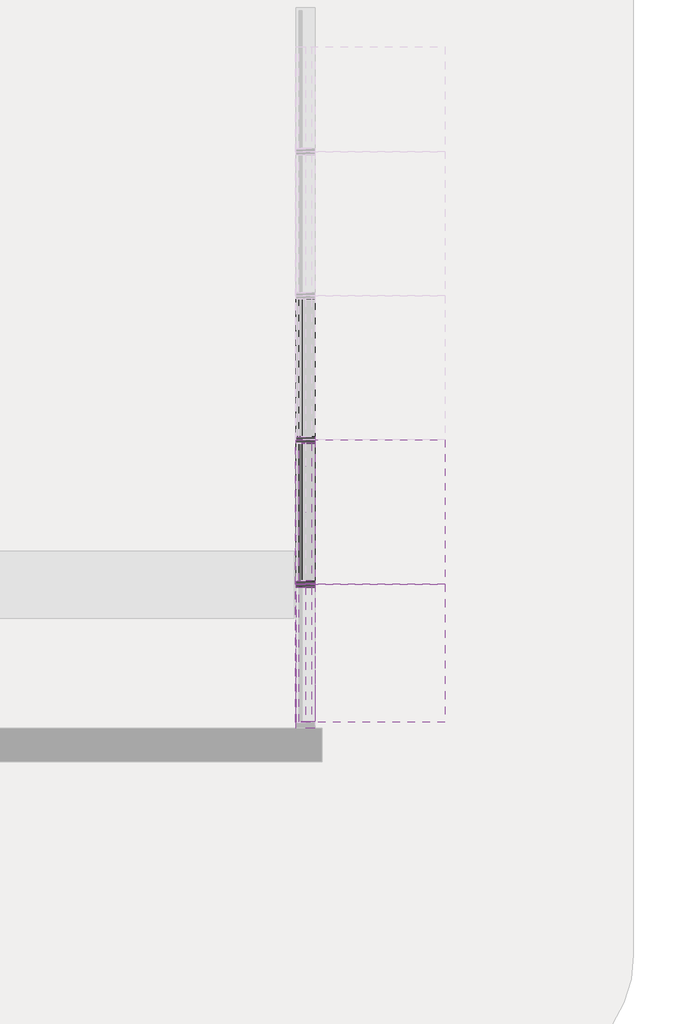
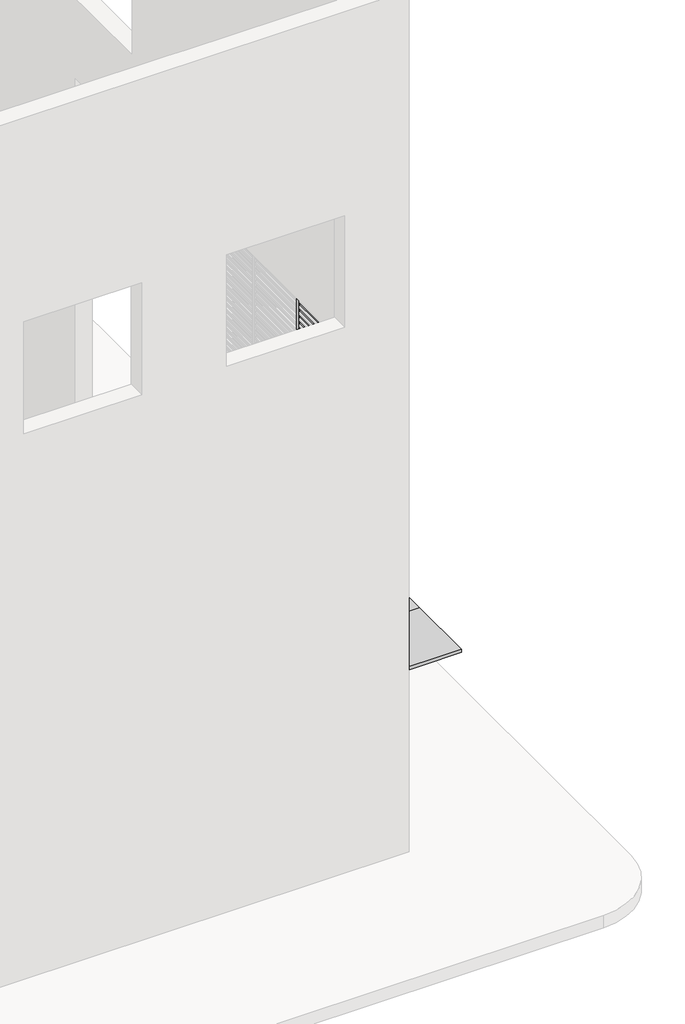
# One storey, part 3 of 8: 82 members, 50 plates.
"""IFC4 building model written with IfcOpenShell, lengths in millimetres."""

from ifc_helpers import new_model, si_unit, origin, place, context, project, spatial, transform, mapped, element, save
from components import rectangular_mullion_50_x_1200mm_c53331d8, rectangular_mullion_50_x_1200mm_b79d1996, rectangular_mullion_50_x_150mm_232fa5d8, rectangular_mullion_50_x_150mm_2c7bb3b8, rectangular_mullion_50_x_150mm_917d0fed, rectangular_mullion_50_x_150mm_81a85930, rectangular_mullion_50_x_150mm_0b18dce2, rectangular_mullion_timber_70_x_35_baa108a1, rectangular_mullion_timber_70_x_35_2d2b050c, empty_system_panel_empty_0ae384b7, empty_system_panel_empty_78dc3901, empty_system_panel_empty_f50b0574, empty_system_panel_empty_9ab0a9e8, system_panel_concept_glazed_5326a568

model = new_model("IFC4")

# Units and contexts
model_context = context("Model", 3, world=origin())
ifc_project = project(units=[si_unit("LENGTHUNIT", "METRE", prefix="MILLI")], contexts=[model_context])

# Site, building, storey
site = spatial("IfcSite", under=ifc_project)
building = spatial("IfcBuilding", under=site)
storey = spatial("IfcBuildingStorey", under=building, Name="0階", Elevation=25100.0)

# Members
placement = place(None, origin())
rectangular_mullion_50_x_1200mm_shape = rectangular_mullion_50_x_1200mm_c53331d8(model_context)
element("IfcMember", 1, ObjectType="Rectangular Mullion : 50 x 1200mm", at=placement, inside=storey, context=model_context, shape_type="MappedRepresentation", body=[
    mapped(rectangular_mullion_50_x_1200mm_shape, transform((45100.0, 1466.2326748, 27800.0), x_axis=(0.0, 0.0, 1.0), y_axis=(1.0, 0.0, 0.0), z_axis=(0.0, 1.0, 0.0))),
])
rectangular_mullion_50_x_1200mm_2_shape = rectangular_mullion_50_x_1200mm_b79d1996(model_context)
element("IfcMember", 2, ObjectType="Rectangular Mullion : 50 x 1200mm", at=placement, inside=storey, context=model_context, shape_type="MappedRepresentation", body=[
    mapped(rectangular_mullion_50_x_1200mm_2_shape, transform((45100.0, 2623.3755319, 27800.0), x_axis=(0.0, 0.0, 1.0), y_axis=(1.0, 0.0, 0.0), z_axis=(0.0, 1.0, 0.0))),
])
rectangular_mullion_50_x_150mm_shape = rectangular_mullion_50_x_150mm_232fa5d8(model_context)
element("IfcMember", 3, ObjectType="Rectangular Mullion : 50 x 150mm", at=placement, inside=storey, context=model_context, shape_type="MappedRepresentation", body=[
    mapped(rectangular_mullion_50_x_150mm_shape, transform((45100.0, 1466.2326748, 32600.0), x_axis=(0.0, 0.0, 1.0), y_axis=(1.0, 0.0, 0.0), z_axis=(0.0, 1.0, 0.0))),
])
element("IfcMember", 4, ObjectType="Rectangular Mullion : 50 x 150mm", at=placement, inside=storey, context=model_context, shape_type="MappedRepresentation", body=[
    mapped(rectangular_mullion_50_x_150mm_shape, transform((45100.0, 2623.3755319, 32600.0), x_axis=(0.0, 0.0, 1.0), y_axis=(1.0, 0.0, 0.0), z_axis=(0.0, 1.0, 0.0))),
])
element("IfcMember", 5, ObjectType="Rectangular Mullion : 50 x 150mm", at=placement, inside=storey, context=model_context, shape_type="MappedRepresentation", body=[
    mapped(rectangular_mullion_50_x_150mm_shape, transform((45100.0, 1466.2326748, 25100.0), x_axis=(0.0, 0.0, -1.0), y_axis=(1.0, 0.0, 0.0), z_axis=(0.0, -1.0, 0.0))),
])
element("IfcMember", 6, ObjectType="Rectangular Mullion : 50 x 150mm", at=placement, inside=storey, context=model_context, shape_type="MappedRepresentation", body=[
    mapped(rectangular_mullion_50_x_150mm_shape, transform((45100.0, 2623.3755319, 25100.0), x_axis=(0.0, 0.0, -1.0), y_axis=(1.0, 0.0, 0.0), z_axis=(0.0, -1.0, 0.0))),
])
rectangular_mullion_50_x_150mm_2_shape = rectangular_mullion_50_x_150mm_2c7bb3b8(model_context)
element("IfcMember", 7, ObjectType="Rectangular Mullion : 50 x 150mm", at=placement, inside=storey, context=model_context, shape_type="MappedRepresentation", body=[
    mapped(rectangular_mullion_50_x_150mm_2_shape, transform((45100.0, 1466.2326748, 25150.0), x_axis=(0.0, 1.0, 0.0), y_axis=(1.0, 0.0, 0.0), z_axis=(0.0, 0.0, -1.0))),
])
element("IfcMember", 8, ObjectType="Rectangular Mullion : 50 x 150mm", at=placement, inside=storey, context=model_context, shape_type="MappedRepresentation", body=[
    mapped(rectangular_mullion_50_x_150mm_2_shape, transform((45100.0, 2623.3755319, 25150.0), x_axis=(0.0, 1.0, 0.0), y_axis=(1.0, 0.0, 0.0), z_axis=(0.0, 0.0, -1.0))),
])
element("IfcMember", 9, ObjectType="Rectangular Mullion : 50 x 150mm", at=placement, inside=storey, context=model_context, shape_type="MappedRepresentation", body=[
    mapped(rectangular_mullion_50_x_150mm_2_shape, transform((45100.0, 1466.2326748, 29925.0), x_axis=(0.0, 1.0, 0.0), y_axis=(1.0, 0.0, 0.0), z_axis=(0.0, 0.0, -1.0))),
])
element("IfcMember", 10, ObjectType="Rectangular Mullion : 50 x 150mm", at=placement, inside=storey, context=model_context, shape_type="MappedRepresentation", body=[
    mapped(rectangular_mullion_50_x_150mm_2_shape, transform((45100.0, 2623.3755319, 29925.0), x_axis=(0.0, 1.0, 0.0), y_axis=(1.0, 0.0, 0.0), z_axis=(0.0, 0.0, -1.0))),
])
rectangular_mullion_50_x_150mm_3_shape = rectangular_mullion_50_x_150mm_917d0fed(model_context)
element("IfcMember", 11, ObjectType="Rectangular Mullion : 50 x 150mm", at=placement, inside=storey, context=model_context, shape_type="MappedRepresentation", body=[
    mapped(rectangular_mullion_50_x_150mm_3_shape, transform((45100.0, 1466.2326748, 29900.0), x_axis=(0.0, 0.0, 1.0), y_axis=(1.0, 0.0, 0.0), z_axis=(0.0, 1.0, 0.0))),
])
rectangular_mullion_50_x_150mm_4_shape = rectangular_mullion_50_x_150mm_81a85930(model_context)
element("IfcMember", 12, ObjectType="Rectangular Mullion : 50 x 150mm", at=placement, inside=storey, context=model_context, shape_type="MappedRepresentation", body=[
    mapped(rectangular_mullion_50_x_150mm_4_shape, transform((45100.0, 2623.3755319, 29900.0), x_axis=(0.0, 0.0, 1.0), y_axis=(1.0, 0.0, 0.0), z_axis=(0.0, 1.0, 0.0))),
])
rectangular_mullion_50_x_150mm_5_shape = rectangular_mullion_50_x_150mm_0b18dce2(model_context)
element("IfcMember", 13, ObjectType="Rectangular Mullion : 50 x 150mm", at=placement, inside=storey, context=model_context, shape_type="MappedRepresentation", body=[
    mapped(rectangular_mullion_50_x_150mm_5_shape, transform((45100.0, 1466.2326748, 27825.0), x_axis=(0.0, 1.0, 0.0), y_axis=(1.0, 0.0, 0.0), z_axis=(0.0, 0.0, -1.0))),
])
element("IfcMember", 14, ObjectType="Rectangular Mullion : 50 x 150mm", at=placement, inside=storey, context=model_context, shape_type="MappedRepresentation", body=[
    mapped(rectangular_mullion_50_x_150mm_5_shape, transform((45100.0, 2623.3755319, 27825.0), x_axis=(0.0, 1.0, 0.0), y_axis=(1.0, 0.0, 0.0), z_axis=(0.0, 0.0, -1.0))),
])
rectangular_mullion_timber_70_x_35_shape = rectangular_mullion_timber_70_x_35_baa108a1(model_context)
element("IfcMember", 15, ObjectType="Rectangular Mullion : Timber - 70 x 35", at=placement, inside=storey, context=model_context, shape_type="MappedRepresentation", body=[
    mapped(rectangular_mullion_timber_70_x_35_shape, transform((45100.0, 1441.2326748, 27907.5), x_axis=(0.0, 0.0, 1.0), y_axis=(1.0, 0.0, 0.0), z_axis=(0.0, 1.0, 0.0))),
])
element("IfcMember", 16, ObjectType="Rectangular Mullion : Timber - 70 x 35", at=placement, inside=storey, context=model_context, shape_type="MappedRepresentation", body=[
    mapped(rectangular_mullion_timber_70_x_35_shape, transform((45100.0, 1441.2326748, 28007.5), x_axis=(0.0, 0.0, 1.0), y_axis=(1.0, 0.0, 0.0), z_axis=(0.0, 1.0, 0.0))),
])
element("IfcMember", 17, ObjectType="Rectangular Mullion : Timber - 70 x 35", at=placement, inside=storey, context=model_context, shape_type="MappedRepresentation", body=[
    mapped(rectangular_mullion_timber_70_x_35_shape, transform((45100.0, 1441.2326748, 28107.5), x_axis=(0.0, 0.0, 1.0), y_axis=(1.0, 0.0, 0.0), z_axis=(0.0, 1.0, 0.0))),
])
element("IfcMember", 18, ObjectType="Rectangular Mullion : Timber - 70 x 35", at=placement, inside=storey, context=model_context, shape_type="MappedRepresentation", body=[
    mapped(rectangular_mullion_timber_70_x_35_shape, transform((45100.0, 1441.2326748, 28207.5), x_axis=(0.0, 0.0, 1.0), y_axis=(1.0, 0.0, 0.0), z_axis=(0.0, 1.0, 0.0))),
])
element("IfcMember", 19, ObjectType="Rectangular Mullion : Timber - 70 x 35", at=placement, inside=storey, context=model_context, shape_type="MappedRepresentation", body=[
    mapped(rectangular_mullion_timber_70_x_35_shape, transform((45100.0, 1441.2326748, 28307.5), x_axis=(0.0, 0.0, 1.0), y_axis=(1.0, 0.0, 0.0), z_axis=(0.0, 1.0, 0.0))),
])
element("IfcMember", 20, ObjectType="Rectangular Mullion : Timber - 70 x 35", at=placement, inside=storey, context=model_context, shape_type="MappedRepresentation", body=[
    mapped(rectangular_mullion_timber_70_x_35_shape, transform((45100.0, 1441.2326748, 28407.5), x_axis=(0.0, 0.0, 1.0), y_axis=(1.0, 0.0, 0.0), z_axis=(0.0, 1.0, 0.0))),
])
element("IfcMember", 21, ObjectType="Rectangular Mullion : Timber - 70 x 35", at=placement, inside=storey, context=model_context, shape_type="MappedRepresentation", body=[
    mapped(rectangular_mullion_timber_70_x_35_shape, transform((45100.0, 1441.2326748, 28507.5), x_axis=(0.0, 0.0, 1.0), y_axis=(1.0, 0.0, 0.0), z_axis=(0.0, 1.0, 0.0))),
])
element("IfcMember", 22, ObjectType="Rectangular Mullion : Timber - 70 x 35", at=placement, inside=storey, context=model_context, shape_type="MappedRepresentation", body=[
    mapped(rectangular_mullion_timber_70_x_35_shape, transform((45100.0, 1441.2326748, 28607.5), x_axis=(0.0, 0.0, 1.0), y_axis=(1.0, 0.0, 0.0), z_axis=(0.0, 1.0, 0.0))),
])
element("IfcMember", 23, ObjectType="Rectangular Mullion : Timber - 70 x 35", at=placement, inside=storey, context=model_context, shape_type="MappedRepresentation", body=[
    mapped(rectangular_mullion_timber_70_x_35_shape, transform((45100.0, 1441.2326748, 28707.5), x_axis=(0.0, 0.0, 1.0), y_axis=(1.0, 0.0, 0.0), z_axis=(0.0, 1.0, 0.0))),
])
element("IfcMember", 24, ObjectType="Rectangular Mullion : Timber - 70 x 35", at=placement, inside=storey, context=model_context, shape_type="MappedRepresentation", body=[
    mapped(rectangular_mullion_timber_70_x_35_shape, transform((45100.0, 1441.2326748, 28807.5), x_axis=(0.0, 0.0, 1.0), y_axis=(1.0, 0.0, 0.0), z_axis=(0.0, 1.0, 0.0))),
])
element("IfcMember", 25, ObjectType="Rectangular Mullion : Timber - 70 x 35", at=placement, inside=storey, context=model_context, shape_type="MappedRepresentation", body=[
    mapped(rectangular_mullion_timber_70_x_35_shape, transform((45100.0, 1441.2326748, 28907.5), x_axis=(0.0, 0.0, 1.0), y_axis=(1.0, 0.0, 0.0), z_axis=(0.0, 1.0, 0.0))),
])
element("IfcMember", 26, ObjectType="Rectangular Mullion : Timber - 70 x 35", at=placement, inside=storey, context=model_context, shape_type="MappedRepresentation", body=[
    mapped(rectangular_mullion_timber_70_x_35_shape, transform((45100.0, 1441.2326748, 29007.5), x_axis=(0.0, 0.0, 1.0), y_axis=(1.0, 0.0, 0.0), z_axis=(0.0, 1.0, 0.0))),
])
element("IfcMember", 27, ObjectType="Rectangular Mullion : Timber - 70 x 35", at=placement, inside=storey, context=model_context, shape_type="MappedRepresentation", body=[
    mapped(rectangular_mullion_timber_70_x_35_shape, transform((45100.0, 1441.2326748, 29107.5), x_axis=(0.0, 0.0, 1.0), y_axis=(1.0, 0.0, 0.0), z_axis=(0.0, 1.0, 0.0))),
])
element("IfcMember", 28, ObjectType="Rectangular Mullion : Timber - 70 x 35", at=placement, inside=storey, context=model_context, shape_type="MappedRepresentation", body=[
    mapped(rectangular_mullion_timber_70_x_35_shape, transform((45100.0, 1441.2326748, 29207.5), x_axis=(0.0, 0.0, 1.0), y_axis=(1.0, 0.0, 0.0), z_axis=(0.0, 1.0, 0.0))),
])
element("IfcMember", 29, ObjectType="Rectangular Mullion : Timber - 70 x 35", at=placement, inside=storey, context=model_context, shape_type="MappedRepresentation", body=[
    mapped(rectangular_mullion_timber_70_x_35_shape, transform((45100.0, 1441.2326748, 29307.5), x_axis=(0.0, 0.0, 1.0), y_axis=(1.0, 0.0, 0.0), z_axis=(0.0, 1.0, 0.0))),
])
element("IfcMember", 30, ObjectType="Rectangular Mullion : Timber - 70 x 35", at=placement, inside=storey, context=model_context, shape_type="MappedRepresentation", body=[
    mapped(rectangular_mullion_timber_70_x_35_shape, transform((45100.0, 1441.2326748, 29407.5), x_axis=(0.0, 0.0, 1.0), y_axis=(1.0, 0.0, 0.0), z_axis=(0.0, 1.0, 0.0))),
])
element("IfcMember", 31, ObjectType="Rectangular Mullion : Timber - 70 x 35", at=placement, inside=storey, context=model_context, shape_type="MappedRepresentation", body=[
    mapped(rectangular_mullion_timber_70_x_35_shape, transform((45100.0, 1441.2326748, 29507.5), x_axis=(0.0, 0.0, 1.0), y_axis=(1.0, 0.0, 0.0), z_axis=(0.0, 1.0, 0.0))),
])
element("IfcMember", 32, ObjectType="Rectangular Mullion : Timber - 70 x 35", at=placement, inside=storey, context=model_context, shape_type="MappedRepresentation", body=[
    mapped(rectangular_mullion_timber_70_x_35_shape, transform((45100.0, 1441.2326748, 29607.5), x_axis=(0.0, 0.0, 1.0), y_axis=(1.0, 0.0, 0.0), z_axis=(0.0, 1.0, 0.0))),
])
element("IfcMember", 33, ObjectType="Rectangular Mullion : Timber - 70 x 35", at=placement, inside=storey, context=model_context, shape_type="MappedRepresentation", body=[
    mapped(rectangular_mullion_timber_70_x_35_shape, transform((45100.0, 1441.2326748, 29707.5), x_axis=(0.0, 0.0, 1.0), y_axis=(1.0, 0.0, 0.0), z_axis=(0.0, 1.0, 0.0))),
])
element("IfcMember", 34, ObjectType="Rectangular Mullion : Timber - 70 x 35", at=placement, inside=storey, context=model_context, shape_type="MappedRepresentation", body=[
    mapped(rectangular_mullion_timber_70_x_35_shape, transform((45100.0, 1441.2326748, 29807.5), x_axis=(0.0, 0.0, 1.0), y_axis=(1.0, 0.0, 0.0), z_axis=(0.0, 1.0, 0.0))),
])
element("IfcMember", 35, ObjectType="Rectangular Mullion : Timber - 70 x 35", at=placement, inside=storey, context=model_context, shape_type="MappedRepresentation", body=[
    mapped(rectangular_mullion_timber_70_x_35_shape, transform((45100.0, 1441.2326748, 30007.5), x_axis=(0.0, 0.0, 1.0), y_axis=(1.0, 0.0, 0.0), z_axis=(0.0, 1.0, 0.0))),
])
element("IfcMember", 36, ObjectType="Rectangular Mullion : Timber - 70 x 35", at=placement, inside=storey, context=model_context, shape_type="MappedRepresentation", body=[
    mapped(rectangular_mullion_timber_70_x_35_shape, transform((45100.0, 1441.2326748, 30107.5), x_axis=(0.0, 0.0, 1.0), y_axis=(1.0, 0.0, 0.0), z_axis=(0.0, 1.0, 0.0))),
])
element("IfcMember", 37, ObjectType="Rectangular Mullion : Timber - 70 x 35", at=placement, inside=storey, context=model_context, shape_type="MappedRepresentation", body=[
    mapped(rectangular_mullion_timber_70_x_35_shape, transform((45100.0, 1441.2326748, 30207.5), x_axis=(0.0, 0.0, 1.0), y_axis=(1.0, 0.0, 0.0), z_axis=(0.0, 1.0, 0.0))),
])
element("IfcMember", 38, ObjectType="Rectangular Mullion : Timber - 70 x 35", at=placement, inside=storey, context=model_context, shape_type="MappedRepresentation", body=[
    mapped(rectangular_mullion_timber_70_x_35_shape, transform((45100.0, 1441.2326748, 30307.5), x_axis=(0.0, 0.0, 1.0), y_axis=(1.0, 0.0, 0.0), z_axis=(0.0, 1.0, 0.0))),
])
element("IfcMember", 39, ObjectType="Rectangular Mullion : Timber - 70 x 35", at=placement, inside=storey, context=model_context, shape_type="MappedRepresentation", body=[
    mapped(rectangular_mullion_timber_70_x_35_shape, transform((45100.0, 1441.2326748, 30407.5), x_axis=(0.0, 0.0, 1.0), y_axis=(1.0, 0.0, 0.0), z_axis=(0.0, 1.0, 0.0))),
])
element("IfcMember", 40, ObjectType="Rectangular Mullion : Timber - 70 x 35", at=placement, inside=storey, context=model_context, shape_type="MappedRepresentation", body=[
    mapped(rectangular_mullion_timber_70_x_35_shape, transform((45100.0, 1441.2326748, 30507.5), x_axis=(0.0, 0.0, 1.0), y_axis=(1.0, 0.0, 0.0), z_axis=(0.0, 1.0, 0.0))),
])
element("IfcMember", 41, ObjectType="Rectangular Mullion : Timber - 70 x 35", at=placement, inside=storey, context=model_context, shape_type="MappedRepresentation", body=[
    mapped(rectangular_mullion_timber_70_x_35_shape, transform((45100.0, 1441.2326748, 30607.5), x_axis=(0.0, 0.0, 1.0), y_axis=(1.0, 0.0, 0.0), z_axis=(0.0, 1.0, 0.0))),
])
element("IfcMember", 42, ObjectType="Rectangular Mullion : Timber - 70 x 35", at=placement, inside=storey, context=model_context, shape_type="MappedRepresentation", body=[
    mapped(rectangular_mullion_timber_70_x_35_shape, transform((45100.0, 1441.2326748, 30707.5), x_axis=(0.0, 0.0, 1.0), y_axis=(1.0, 0.0, 0.0), z_axis=(0.0, 1.0, 0.0))),
])
element("IfcMember", 43, ObjectType="Rectangular Mullion : Timber - 70 x 35", at=placement, inside=storey, context=model_context, shape_type="MappedRepresentation", body=[
    mapped(rectangular_mullion_timber_70_x_35_shape, transform((45100.0, 1441.2326748, 30807.5), x_axis=(0.0, 0.0, 1.0), y_axis=(1.0, 0.0, 0.0), z_axis=(0.0, 1.0, 0.0))),
])
element("IfcMember", 44, ObjectType="Rectangular Mullion : Timber - 70 x 35", at=placement, inside=storey, context=model_context, shape_type="MappedRepresentation", body=[
    mapped(rectangular_mullion_timber_70_x_35_shape, transform((45100.0, 1441.2326748, 30907.5), x_axis=(0.0, 0.0, 1.0), y_axis=(1.0, 0.0, 0.0), z_axis=(0.0, 1.0, 0.0))),
])
element("IfcMember", 45, ObjectType="Rectangular Mullion : Timber - 70 x 35", at=placement, inside=storey, context=model_context, shape_type="MappedRepresentation", body=[
    mapped(rectangular_mullion_timber_70_x_35_shape, transform((45100.0, 1441.2326748, 31007.5), x_axis=(0.0, 0.0, 1.0), y_axis=(1.0, 0.0, 0.0), z_axis=(0.0, 1.0, 0.0))),
])
element("IfcMember", 46, ObjectType="Rectangular Mullion : Timber - 70 x 35", at=placement, inside=storey, context=model_context, shape_type="MappedRepresentation", body=[
    mapped(rectangular_mullion_timber_70_x_35_shape, transform((45100.0, 1441.2326748, 31107.5), x_axis=(0.0, 0.0, 1.0), y_axis=(1.0, 0.0, 0.0), z_axis=(0.0, 1.0, 0.0))),
])
element("IfcMember", 47, ObjectType="Rectangular Mullion : Timber - 70 x 35", at=placement, inside=storey, context=model_context, shape_type="MappedRepresentation", body=[
    mapped(rectangular_mullion_timber_70_x_35_shape, transform((45100.0, 1441.2326748, 31207.5), x_axis=(0.0, 0.0, 1.0), y_axis=(1.0, 0.0, 0.0), z_axis=(0.0, 1.0, 0.0))),
])
element("IfcMember", 48, ObjectType="Rectangular Mullion : Timber - 70 x 35", at=placement, inside=storey, context=model_context, shape_type="MappedRepresentation", body=[
    mapped(rectangular_mullion_timber_70_x_35_shape, transform((45100.0, 1441.2326748, 31307.5), x_axis=(0.0, 0.0, 1.0), y_axis=(1.0, 0.0, 0.0), z_axis=(0.0, 1.0, 0.0))),
])
element("IfcMember", 49, ObjectType="Rectangular Mullion : Timber - 70 x 35", at=placement, inside=storey, context=model_context, shape_type="MappedRepresentation", body=[
    mapped(rectangular_mullion_timber_70_x_35_shape, transform((45100.0, 1441.2326748, 31407.5), x_axis=(0.0, 0.0, 1.0), y_axis=(1.0, 0.0, 0.0), z_axis=(0.0, 1.0, 0.0))),
])
element("IfcMember", 50, ObjectType="Rectangular Mullion : Timber - 70 x 35", at=placement, inside=storey, context=model_context, shape_type="MappedRepresentation", body=[
    mapped(rectangular_mullion_timber_70_x_35_shape, transform((45100.0, 1441.2326748, 31507.5), x_axis=(0.0, 0.0, 1.0), y_axis=(1.0, 0.0, 0.0), z_axis=(0.0, 1.0, 0.0))),
])
element("IfcMember", 51, ObjectType="Rectangular Mullion : Timber - 70 x 35", at=placement, inside=storey, context=model_context, shape_type="MappedRepresentation", body=[
    mapped(rectangular_mullion_timber_70_x_35_shape, transform((45100.0, 1441.2326748, 31607.5), x_axis=(0.0, 0.0, 1.0), y_axis=(1.0, 0.0, 0.0), z_axis=(0.0, 1.0, 0.0))),
])
element("IfcMember", 52, ObjectType="Rectangular Mullion : Timber - 70 x 35", at=placement, inside=storey, context=model_context, shape_type="MappedRepresentation", body=[
    mapped(rectangular_mullion_timber_70_x_35_shape, transform((45100.0, 1441.2326748, 31707.5), x_axis=(0.0, 0.0, 1.0), y_axis=(1.0, 0.0, 0.0), z_axis=(0.0, 1.0, 0.0))),
])
element("IfcMember", 53, ObjectType="Rectangular Mullion : Timber - 70 x 35", at=placement, inside=storey, context=model_context, shape_type="MappedRepresentation", body=[
    mapped(rectangular_mullion_timber_70_x_35_shape, transform((45100.0, 1441.2326748, 31807.5), x_axis=(0.0, 0.0, 1.0), y_axis=(1.0, 0.0, 0.0), z_axis=(0.0, 1.0, 0.0))),
])
element("IfcMember", 54, ObjectType="Rectangular Mullion : Timber - 70 x 35", at=placement, inside=storey, context=model_context, shape_type="MappedRepresentation", body=[
    mapped(rectangular_mullion_timber_70_x_35_shape, transform((45100.0, 1441.2326748, 31907.5), x_axis=(0.0, 0.0, 1.0), y_axis=(1.0, 0.0, 0.0), z_axis=(0.0, 1.0, 0.0))),
])
element("IfcMember", 55, ObjectType="Rectangular Mullion : Timber - 70 x 35", at=placement, inside=storey, context=model_context, shape_type="MappedRepresentation", body=[
    mapped(rectangular_mullion_timber_70_x_35_shape, transform((45100.0, 1441.2326748, 32007.5), x_axis=(0.0, 0.0, 1.0), y_axis=(1.0, 0.0, 0.0), z_axis=(0.0, 1.0, 0.0))),
])
element("IfcMember", 56, ObjectType="Rectangular Mullion : Timber - 70 x 35", at=placement, inside=storey, context=model_context, shape_type="MappedRepresentation", body=[
    mapped(rectangular_mullion_timber_70_x_35_shape, transform((45100.0, 1441.2326748, 32107.5), x_axis=(0.0, 0.0, 1.0), y_axis=(1.0, 0.0, 0.0), z_axis=(0.0, 1.0, 0.0))),
])
element("IfcMember", 57, ObjectType="Rectangular Mullion : Timber - 70 x 35", at=placement, inside=storey, context=model_context, shape_type="MappedRepresentation", body=[
    mapped(rectangular_mullion_timber_70_x_35_shape, transform((45100.0, 1441.2326748, 32207.5), x_axis=(0.0, 0.0, 1.0), y_axis=(1.0, 0.0, 0.0), z_axis=(0.0, 1.0, 0.0))),
])
element("IfcMember", 58, ObjectType="Rectangular Mullion : Timber - 70 x 35", at=placement, inside=storey, context=model_context, shape_type="MappedRepresentation", body=[
    mapped(rectangular_mullion_timber_70_x_35_shape, transform((45100.0, 1441.2326748, 32307.5), x_axis=(0.0, 0.0, 1.0), y_axis=(1.0, 0.0, 0.0), z_axis=(0.0, 1.0, 0.0))),
])
element("IfcMember", 59, ObjectType="Rectangular Mullion : Timber - 70 x 35", at=placement, inside=storey, context=model_context, shape_type="MappedRepresentation", body=[
    mapped(rectangular_mullion_timber_70_x_35_shape, transform((45100.0, 1441.2326748, 32407.5), x_axis=(0.0, 0.0, 1.0), y_axis=(1.0, 0.0, 0.0), z_axis=(0.0, 1.0, 0.0))),
])
element("IfcMember", 60, ObjectType="Rectangular Mullion : Timber - 70 x 35", at=placement, inside=storey, context=model_context, shape_type="MappedRepresentation", body=[
    mapped(rectangular_mullion_timber_70_x_35_shape, transform((45100.0, 1441.2326748, 32507.5), x_axis=(0.0, 0.0, 1.0), y_axis=(1.0, 0.0, 0.0), z_axis=(0.0, 1.0, 0.0))),
])
rectangular_mullion_timber_70_x_35_2_shape = rectangular_mullion_timber_70_x_35_2d2b050c(model_context)
element("IfcMember", 61, ObjectType="Rectangular Mullion : Timber - 70 x 35", at=placement, inside=storey, context=model_context, shape_type="MappedRepresentation", body=[
    mapped(rectangular_mullion_timber_70_x_35_2_shape, transform((45100.0, 2598.3755319, 27907.5), x_axis=(0.0, 0.0, 1.0), y_axis=(1.0, 0.0, 0.0), z_axis=(0.0, 1.0, 0.0))),
])
element("IfcMember", 62, ObjectType="Rectangular Mullion : Timber - 70 x 35", at=placement, inside=storey, context=model_context, shape_type="MappedRepresentation", body=[
    mapped(rectangular_mullion_timber_70_x_35_2_shape, transform((45100.0, 2598.3755319, 28007.5), x_axis=(0.0, 0.0, 1.0), y_axis=(1.0, 0.0, 0.0), z_axis=(0.0, 1.0, 0.0))),
])
element("IfcMember", 63, ObjectType="Rectangular Mullion : Timber - 70 x 35", at=placement, inside=storey, context=model_context, shape_type="MappedRepresentation", body=[
    mapped(rectangular_mullion_timber_70_x_35_2_shape, transform((45100.0, 2598.3755319, 28107.5), x_axis=(0.0, 0.0, 1.0), y_axis=(1.0, 0.0, 0.0), z_axis=(0.0, 1.0, 0.0))),
])
element("IfcMember", 64, ObjectType="Rectangular Mullion : Timber - 70 x 35", at=placement, inside=storey, context=model_context, shape_type="MappedRepresentation", body=[
    mapped(rectangular_mullion_timber_70_x_35_2_shape, transform((45100.0, 2598.3755319, 28207.5), x_axis=(0.0, 0.0, 1.0), y_axis=(1.0, 0.0, 0.0), z_axis=(0.0, 1.0, 0.0))),
])
element("IfcMember", 65, ObjectType="Rectangular Mullion : Timber - 70 x 35", at=placement, inside=storey, context=model_context, shape_type="MappedRepresentation", body=[
    mapped(rectangular_mullion_timber_70_x_35_2_shape, transform((45100.0, 2598.3755319, 28307.5), x_axis=(0.0, 0.0, 1.0), y_axis=(1.0, 0.0, 0.0), z_axis=(0.0, 1.0, 0.0))),
])
element("IfcMember", 66, ObjectType="Rectangular Mullion : Timber - 70 x 35", at=placement, inside=storey, context=model_context, shape_type="MappedRepresentation", body=[
    mapped(rectangular_mullion_timber_70_x_35_2_shape, transform((45100.0, 2598.3755319, 28407.5), x_axis=(0.0, 0.0, 1.0), y_axis=(1.0, 0.0, 0.0), z_axis=(0.0, 1.0, 0.0))),
])
element("IfcMember", 67, ObjectType="Rectangular Mullion : Timber - 70 x 35", at=placement, inside=storey, context=model_context, shape_type="MappedRepresentation", body=[
    mapped(rectangular_mullion_timber_70_x_35_2_shape, transform((45100.0, 2598.3755319, 28507.5), x_axis=(0.0, 0.0, 1.0), y_axis=(1.0, 0.0, 0.0), z_axis=(0.0, 1.0, 0.0))),
])
element("IfcMember", 68, ObjectType="Rectangular Mullion : Timber - 70 x 35", at=placement, inside=storey, context=model_context, shape_type="MappedRepresentation", body=[
    mapped(rectangular_mullion_timber_70_x_35_2_shape, transform((45100.0, 2598.3755319, 28607.5), x_axis=(0.0, 0.0, 1.0), y_axis=(1.0, 0.0, 0.0), z_axis=(0.0, 1.0, 0.0))),
])
element("IfcMember", 69, ObjectType="Rectangular Mullion : Timber - 70 x 35", at=placement, inside=storey, context=model_context, shape_type="MappedRepresentation", body=[
    mapped(rectangular_mullion_timber_70_x_35_2_shape, transform((45100.0, 2598.3755319, 28707.5), x_axis=(0.0, 0.0, 1.0), y_axis=(1.0, 0.0, 0.0), z_axis=(0.0, 1.0, 0.0))),
])
element("IfcMember", 70, ObjectType="Rectangular Mullion : Timber - 70 x 35", at=placement, inside=storey, context=model_context, shape_type="MappedRepresentation", body=[
    mapped(rectangular_mullion_timber_70_x_35_2_shape, transform((45100.0, 2598.3755319, 28807.5), x_axis=(0.0, 0.0, 1.0), y_axis=(1.0, 0.0, 0.0), z_axis=(0.0, 1.0, 0.0))),
])
element("IfcMember", 71, ObjectType="Rectangular Mullion : Timber - 70 x 35", at=placement, inside=storey, context=model_context, shape_type="MappedRepresentation", body=[
    mapped(rectangular_mullion_timber_70_x_35_2_shape, transform((45100.0, 2598.3755319, 28907.5), x_axis=(0.0, 0.0, 1.0), y_axis=(1.0, 0.0, 0.0), z_axis=(0.0, 1.0, 0.0))),
])
element("IfcMember", 72, ObjectType="Rectangular Mullion : Timber - 70 x 35", at=placement, inside=storey, context=model_context, shape_type="MappedRepresentation", body=[
    mapped(rectangular_mullion_timber_70_x_35_2_shape, transform((45100.0, 2598.3755319, 29007.5), x_axis=(0.0, 0.0, 1.0), y_axis=(1.0, 0.0, 0.0), z_axis=(0.0, 1.0, 0.0))),
])
element("IfcMember", 73, ObjectType="Rectangular Mullion : Timber - 70 x 35", at=placement, inside=storey, context=model_context, shape_type="MappedRepresentation", body=[
    mapped(rectangular_mullion_timber_70_x_35_2_shape, transform((45100.0, 2598.3755319, 29107.5), x_axis=(0.0, 0.0, 1.0), y_axis=(1.0, 0.0, 0.0), z_axis=(0.0, 1.0, 0.0))),
])
element("IfcMember", 74, ObjectType="Rectangular Mullion : Timber - 70 x 35", at=placement, inside=storey, context=model_context, shape_type="MappedRepresentation", body=[
    mapped(rectangular_mullion_timber_70_x_35_2_shape, transform((45100.0, 2598.3755319, 29207.5), x_axis=(0.0, 0.0, 1.0), y_axis=(1.0, 0.0, 0.0), z_axis=(0.0, 1.0, 0.0))),
])
element("IfcMember", 75, ObjectType="Rectangular Mullion : Timber - 70 x 35", at=placement, inside=storey, context=model_context, shape_type="MappedRepresentation", body=[
    mapped(rectangular_mullion_timber_70_x_35_2_shape, transform((45100.0, 2598.3755319, 29307.5), x_axis=(0.0, 0.0, 1.0), y_axis=(1.0, 0.0, 0.0), z_axis=(0.0, 1.0, 0.0))),
])
element("IfcMember", 76, ObjectType="Rectangular Mullion : Timber - 70 x 35", at=placement, inside=storey, context=model_context, shape_type="MappedRepresentation", body=[
    mapped(rectangular_mullion_timber_70_x_35_2_shape, transform((45100.0, 2598.3755319, 29407.5), x_axis=(0.0, 0.0, 1.0), y_axis=(1.0, 0.0, 0.0), z_axis=(0.0, 1.0, 0.0))),
])
element("IfcMember", 77, ObjectType="Rectangular Mullion : Timber - 70 x 35", at=placement, inside=storey, context=model_context, shape_type="MappedRepresentation", body=[
    mapped(rectangular_mullion_timber_70_x_35_2_shape, transform((45100.0, 2598.3755319, 29507.5), x_axis=(0.0, 0.0, 1.0), y_axis=(1.0, 0.0, 0.0), z_axis=(0.0, 1.0, 0.0))),
])
element("IfcMember", 78, ObjectType="Rectangular Mullion : Timber - 70 x 35", at=placement, inside=storey, context=model_context, shape_type="MappedRepresentation", body=[
    mapped(rectangular_mullion_timber_70_x_35_2_shape, transform((45100.0, 2598.3755319, 29607.5), x_axis=(0.0, 0.0, 1.0), y_axis=(1.0, 0.0, 0.0), z_axis=(0.0, 1.0, 0.0))),
])
element("IfcMember", 79, ObjectType="Rectangular Mullion : Timber - 70 x 35", at=placement, inside=storey, context=model_context, shape_type="MappedRepresentation", body=[
    mapped(rectangular_mullion_timber_70_x_35_2_shape, transform((45100.0, 2598.3755319, 29707.5), x_axis=(0.0, 0.0, 1.0), y_axis=(1.0, 0.0, 0.0), z_axis=(0.0, 1.0, 0.0))),
])
element("IfcMember", 80, ObjectType="Rectangular Mullion : Timber - 70 x 35", at=placement, inside=storey, context=model_context, shape_type="MappedRepresentation", body=[
    mapped(rectangular_mullion_timber_70_x_35_2_shape, transform((45100.0, 2598.3755319, 29807.5), x_axis=(0.0, 0.0, 1.0), y_axis=(1.0, 0.0, 0.0), z_axis=(0.0, 1.0, 0.0))),
])
element("IfcMember", 81, ObjectType="Rectangular Mullion : Timber - 70 x 35", at=placement, inside=storey, context=model_context, shape_type="MappedRepresentation", body=[
    mapped(rectangular_mullion_timber_70_x_35_2_shape, transform((45100.0, 2598.3755319, 30007.5), x_axis=(0.0, 0.0, 1.0), y_axis=(1.0, 0.0, 0.0), z_axis=(0.0, 1.0, 0.0))),
])
element("IfcMember", 82, ObjectType="Rectangular Mullion : Timber - 70 x 35", at=placement, inside=storey, context=model_context, shape_type="MappedRepresentation", body=[
    mapped(rectangular_mullion_timber_70_x_35_2_shape, transform((45100.0, 2598.3755319, 30107.5), x_axis=(0.0, 0.0, 1.0), y_axis=(1.0, 0.0, 0.0), z_axis=(0.0, 1.0, 0.0))),
])

# Plates
empty_system_panel_empty_shape = empty_system_panel_empty_0ae384b7(model_context)
element("IfcPlate", 83, ObjectType="Empty System Panel : Empty", at=placement, inside=storey, context=model_context, shape_type="MappedRepresentation", body=[
    mapped(empty_system_panel_empty_shape, transform((45100.0, 2044.8041034, 29825.0), x_axis=(0.0, 1.0, 0.0), y_axis=(-1.0, 0.0, 0.0), z_axis=(0.0, 0.0, 1.0))),
])
empty_system_panel_empty_2_shape = empty_system_panel_empty_78dc3901(model_context)
element("IfcPlate", 84, ObjectType="Empty System Panel : Empty", at=placement, inside=storey, context=model_context, shape_type="MappedRepresentation", body=[
    mapped(empty_system_panel_empty_2_shape, transform((45100.0, 900.1612462, 32525.0), x_axis=(0.0, 1.0, 0.0), y_axis=(-1.0, 0.0, 0.0), z_axis=(0.0, 0.0, 1.0))),
])
empty_system_panel_empty_3_shape = empty_system_panel_empty_f50b0574(model_context)
element("IfcPlate", 85, ObjectType="Empty System Panel : Empty", at=placement, inside=storey, context=model_context, shape_type="MappedRepresentation", body=[
    mapped(empty_system_panel_empty_3_shape, transform((45100.0, 2044.8041034, 32525.0), x_axis=(0.0, 1.0, 0.0), y_axis=(-1.0, 0.0, 0.0), z_axis=(0.0, 0.0, 1.0))),
])
empty_system_panel_empty_4_shape = empty_system_panel_empty_9ab0a9e8(model_context)
element("IfcPlate", 86, ObjectType="Empty System Panel : Empty", at=placement, inside=storey, context=model_context, shape_type="MappedRepresentation", body=[
    mapped(empty_system_panel_empty_4_shape, transform((45100.0, 2044.8041034, 27825.0), x_axis=(0.0, 1.0, 0.0), y_axis=(-1.0, 0.0, 0.0), z_axis=(0.0, 0.0, 1.0))),
])
element("IfcPlate", 87, ObjectType="Empty System Panel : Empty", at=placement, inside=storey, context=model_context, shape_type="MappedRepresentation", body=[
    mapped(empty_system_panel_empty_4_shape, transform((45100.0, 2044.8041034, 29925.0), x_axis=(0.0, 1.0, 0.0), y_axis=(-1.0, 0.0, 0.0), z_axis=(0.0, 0.0, 1.0))),
])
element("IfcPlate", 88, ObjectType="Empty System Panel : Empty", at=placement, inside=storey, context=model_context, shape_type="MappedRepresentation", body=[
    mapped(empty_system_panel_empty_4_shape, transform((45100.0, 2044.8041034, 27925.0), x_axis=(0.0, 1.0, 0.0), y_axis=(-1.0, 0.0, 0.0), z_axis=(0.0, 0.0, 1.0))),
])
element("IfcPlate", 89, ObjectType="Empty System Panel : Empty", at=placement, inside=storey, context=model_context, shape_type="MappedRepresentation", body=[
    mapped(empty_system_panel_empty_4_shape, transform((45100.0, 2044.8041034, 28025.0), x_axis=(0.0, 1.0, 0.0), y_axis=(-1.0, 0.0, 0.0), z_axis=(0.0, 0.0, 1.0))),
])
element("IfcPlate", 90, ObjectType="Empty System Panel : Empty", at=placement, inside=storey, context=model_context, shape_type="MappedRepresentation", body=[
    mapped(empty_system_panel_empty_4_shape, transform((45100.0, 2044.8041034, 28125.0), x_axis=(0.0, 1.0, 0.0), y_axis=(-1.0, 0.0, 0.0), z_axis=(0.0, 0.0, 1.0))),
])
element("IfcPlate", 91, ObjectType="Empty System Panel : Empty", at=placement, inside=storey, context=model_context, shape_type="MappedRepresentation", body=[
    mapped(empty_system_panel_empty_4_shape, transform((45100.0, 2044.8041034, 28225.0), x_axis=(0.0, 1.0, 0.0), y_axis=(-1.0, 0.0, 0.0), z_axis=(0.0, 0.0, 1.0))),
])
element("IfcPlate", 92, ObjectType="Empty System Panel : Empty", at=placement, inside=storey, context=model_context, shape_type="MappedRepresentation", body=[
    mapped(empty_system_panel_empty_4_shape, transform((45100.0, 2044.8041034, 28325.0), x_axis=(0.0, 1.0, 0.0), y_axis=(-1.0, 0.0, 0.0), z_axis=(0.0, 0.0, 1.0))),
])
element("IfcPlate", 93, ObjectType="Empty System Panel : Empty", at=placement, inside=storey, context=model_context, shape_type="MappedRepresentation", body=[
    mapped(empty_system_panel_empty_4_shape, transform((45100.0, 2044.8041034, 28425.0), x_axis=(0.0, 1.0, 0.0), y_axis=(-1.0, 0.0, 0.0), z_axis=(0.0, 0.0, 1.0))),
])
element("IfcPlate", 94, ObjectType="Empty System Panel : Empty", at=placement, inside=storey, context=model_context, shape_type="MappedRepresentation", body=[
    mapped(empty_system_panel_empty_4_shape, transform((45100.0, 2044.8041034, 28525.0), x_axis=(0.0, 1.0, 0.0), y_axis=(-1.0, 0.0, 0.0), z_axis=(0.0, 0.0, 1.0))),
])
element("IfcPlate", 95, ObjectType="Empty System Panel : Empty", at=placement, inside=storey, context=model_context, shape_type="MappedRepresentation", body=[
    mapped(empty_system_panel_empty_4_shape, transform((45100.0, 2044.8041034, 28625.0), x_axis=(0.0, 1.0, 0.0), y_axis=(-1.0, 0.0, 0.0), z_axis=(0.0, 0.0, 1.0))),
])
element("IfcPlate", 96, ObjectType="Empty System Panel : Empty", at=placement, inside=storey, context=model_context, shape_type="MappedRepresentation", body=[
    mapped(empty_system_panel_empty_4_shape, transform((45100.0, 2044.8041034, 28725.0), x_axis=(0.0, 1.0, 0.0), y_axis=(-1.0, 0.0, 0.0), z_axis=(0.0, 0.0, 1.0))),
])
element("IfcPlate", 97, ObjectType="Empty System Panel : Empty", at=placement, inside=storey, context=model_context, shape_type="MappedRepresentation", body=[
    mapped(empty_system_panel_empty_4_shape, transform((45100.0, 2044.8041034, 28825.0), x_axis=(0.0, 1.0, 0.0), y_axis=(-1.0, 0.0, 0.0), z_axis=(0.0, 0.0, 1.0))),
])
element("IfcPlate", 98, ObjectType="Empty System Panel : Empty", at=placement, inside=storey, context=model_context, shape_type="MappedRepresentation", body=[
    mapped(empty_system_panel_empty_4_shape, transform((45100.0, 2044.8041034, 28925.0), x_axis=(0.0, 1.0, 0.0), y_axis=(-1.0, 0.0, 0.0), z_axis=(0.0, 0.0, 1.0))),
])
element("IfcPlate", 99, ObjectType="Empty System Panel : Empty", at=placement, inside=storey, context=model_context, shape_type="MappedRepresentation", body=[
    mapped(empty_system_panel_empty_4_shape, transform((45100.0, 2044.8041034, 29025.0), x_axis=(0.0, 1.0, 0.0), y_axis=(-1.0, 0.0, 0.0), z_axis=(0.0, 0.0, 1.0))),
])
element("IfcPlate", 100, ObjectType="Empty System Panel : Empty", at=placement, inside=storey, context=model_context, shape_type="MappedRepresentation", body=[
    mapped(empty_system_panel_empty_4_shape, transform((45100.0, 2044.8041034, 29125.0), x_axis=(0.0, 1.0, 0.0), y_axis=(-1.0, 0.0, 0.0), z_axis=(0.0, 0.0, 1.0))),
])
element("IfcPlate", 101, ObjectType="Empty System Panel : Empty", at=placement, inside=storey, context=model_context, shape_type="MappedRepresentation", body=[
    mapped(empty_system_panel_empty_4_shape, transform((45100.0, 2044.8041034, 29225.0), x_axis=(0.0, 1.0, 0.0), y_axis=(-1.0, 0.0, 0.0), z_axis=(0.0, 0.0, 1.0))),
])
element("IfcPlate", 102, ObjectType="Empty System Panel : Empty", at=placement, inside=storey, context=model_context, shape_type="MappedRepresentation", body=[
    mapped(empty_system_panel_empty_4_shape, transform((45100.0, 2044.8041034, 29325.0), x_axis=(0.0, 1.0, 0.0), y_axis=(-1.0, 0.0, 0.0), z_axis=(0.0, 0.0, 1.0))),
])
element("IfcPlate", 103, ObjectType="Empty System Panel : Empty", at=placement, inside=storey, context=model_context, shape_type="MappedRepresentation", body=[
    mapped(empty_system_panel_empty_4_shape, transform((45100.0, 2044.8041034, 29425.0), x_axis=(0.0, 1.0, 0.0), y_axis=(-1.0, 0.0, 0.0), z_axis=(0.0, 0.0, 1.0))),
])
element("IfcPlate", 104, ObjectType="Empty System Panel : Empty", at=placement, inside=storey, context=model_context, shape_type="MappedRepresentation", body=[
    mapped(empty_system_panel_empty_4_shape, transform((45100.0, 2044.8041034, 29525.0), x_axis=(0.0, 1.0, 0.0), y_axis=(-1.0, 0.0, 0.0), z_axis=(0.0, 0.0, 1.0))),
])
element("IfcPlate", 105, ObjectType="Empty System Panel : Empty", at=placement, inside=storey, context=model_context, shape_type="MappedRepresentation", body=[
    mapped(empty_system_panel_empty_4_shape, transform((45100.0, 2044.8041034, 29625.0), x_axis=(0.0, 1.0, 0.0), y_axis=(-1.0, 0.0, 0.0), z_axis=(0.0, 0.0, 1.0))),
])
element("IfcPlate", 106, ObjectType="Empty System Panel : Empty", at=placement, inside=storey, context=model_context, shape_type="MappedRepresentation", body=[
    mapped(empty_system_panel_empty_4_shape, transform((45100.0, 2044.8041034, 29725.0), x_axis=(0.0, 1.0, 0.0), y_axis=(-1.0, 0.0, 0.0), z_axis=(0.0, 0.0, 1.0))),
])
element("IfcPlate", 107, ObjectType="Empty System Panel : Empty", at=placement, inside=storey, context=model_context, shape_type="MappedRepresentation", body=[
    mapped(empty_system_panel_empty_4_shape, transform((45100.0, 2044.8041034, 30025.0), x_axis=(0.0, 1.0, 0.0), y_axis=(-1.0, 0.0, 0.0), z_axis=(0.0, 0.0, 1.0))),
])
element("IfcPlate", 108, ObjectType="Empty System Panel : Empty", at=placement, inside=storey, context=model_context, shape_type="MappedRepresentation", body=[
    mapped(empty_system_panel_empty_4_shape, transform((45100.0, 2044.8041034, 30125.0), x_axis=(0.0, 1.0, 0.0), y_axis=(-1.0, 0.0, 0.0), z_axis=(0.0, 0.0, 1.0))),
])
element("IfcPlate", 109, ObjectType="Empty System Panel : Empty", at=placement, inside=storey, context=model_context, shape_type="MappedRepresentation", body=[
    mapped(empty_system_panel_empty_4_shape, transform((45100.0, 2044.8041034, 30225.0), x_axis=(0.0, 1.0, 0.0), y_axis=(-1.0, 0.0, 0.0), z_axis=(0.0, 0.0, 1.0))),
])
element("IfcPlate", 110, ObjectType="Empty System Panel : Empty", at=placement, inside=storey, context=model_context, shape_type="MappedRepresentation", body=[
    mapped(empty_system_panel_empty_4_shape, transform((45100.0, 2044.8041034, 30325.0), x_axis=(0.0, 1.0, 0.0), y_axis=(-1.0, 0.0, 0.0), z_axis=(0.0, 0.0, 1.0))),
])
element("IfcPlate", 111, ObjectType="Empty System Panel : Empty", at=placement, inside=storey, context=model_context, shape_type="MappedRepresentation", body=[
    mapped(empty_system_panel_empty_4_shape, transform((45100.0, 2044.8041034, 30425.0), x_axis=(0.0, 1.0, 0.0), y_axis=(-1.0, 0.0, 0.0), z_axis=(0.0, 0.0, 1.0))),
])
element("IfcPlate", 112, ObjectType="Empty System Panel : Empty", at=placement, inside=storey, context=model_context, shape_type="MappedRepresentation", body=[
    mapped(empty_system_panel_empty_4_shape, transform((45100.0, 2044.8041034, 30525.0), x_axis=(0.0, 1.0, 0.0), y_axis=(-1.0, 0.0, 0.0), z_axis=(0.0, 0.0, 1.0))),
])
element("IfcPlate", 113, ObjectType="Empty System Panel : Empty", at=placement, inside=storey, context=model_context, shape_type="MappedRepresentation", body=[
    mapped(empty_system_panel_empty_4_shape, transform((45100.0, 2044.8041034, 30625.0), x_axis=(0.0, 1.0, 0.0), y_axis=(-1.0, 0.0, 0.0), z_axis=(0.0, 0.0, 1.0))),
])
element("IfcPlate", 114, ObjectType="Empty System Panel : Empty", at=placement, inside=storey, context=model_context, shape_type="MappedRepresentation", body=[
    mapped(empty_system_panel_empty_4_shape, transform((45100.0, 2044.8041034, 30725.0), x_axis=(0.0, 1.0, 0.0), y_axis=(-1.0, 0.0, 0.0), z_axis=(0.0, 0.0, 1.0))),
])
element("IfcPlate", 115, ObjectType="Empty System Panel : Empty", at=placement, inside=storey, context=model_context, shape_type="MappedRepresentation", body=[
    mapped(empty_system_panel_empty_4_shape, transform((45100.0, 2044.8041034, 30825.0), x_axis=(0.0, 1.0, 0.0), y_axis=(-1.0, 0.0, 0.0), z_axis=(0.0, 0.0, 1.0))),
])
element("IfcPlate", 116, ObjectType="Empty System Panel : Empty", at=placement, inside=storey, context=model_context, shape_type="MappedRepresentation", body=[
    mapped(empty_system_panel_empty_4_shape, transform((45100.0, 2044.8041034, 30925.0), x_axis=(0.0, 1.0, 0.0), y_axis=(-1.0, 0.0, 0.0), z_axis=(0.0, 0.0, 1.0))),
])
element("IfcPlate", 117, ObjectType="Empty System Panel : Empty", at=placement, inside=storey, context=model_context, shape_type="MappedRepresentation", body=[
    mapped(empty_system_panel_empty_4_shape, transform((45100.0, 2044.8041034, 31025.0), x_axis=(0.0, 1.0, 0.0), y_axis=(-1.0, 0.0, 0.0), z_axis=(0.0, 0.0, 1.0))),
])
element("IfcPlate", 118, ObjectType="Empty System Panel : Empty", at=placement, inside=storey, context=model_context, shape_type="MappedRepresentation", body=[
    mapped(empty_system_panel_empty_4_shape, transform((45100.0, 2044.8041034, 31125.0), x_axis=(0.0, 1.0, 0.0), y_axis=(-1.0, 0.0, 0.0), z_axis=(0.0, 0.0, 1.0))),
])
element("IfcPlate", 119, ObjectType="Empty System Panel : Empty", at=placement, inside=storey, context=model_context, shape_type="MappedRepresentation", body=[
    mapped(empty_system_panel_empty_4_shape, transform((45100.0, 2044.8041034, 31225.0), x_axis=(0.0, 1.0, 0.0), y_axis=(-1.0, 0.0, 0.0), z_axis=(0.0, 0.0, 1.0))),
])
element("IfcPlate", 120, ObjectType="Empty System Panel : Empty", at=placement, inside=storey, context=model_context, shape_type="MappedRepresentation", body=[
    mapped(empty_system_panel_empty_4_shape, transform((45100.0, 2044.8041034, 31325.0), x_axis=(0.0, 1.0, 0.0), y_axis=(-1.0, 0.0, 0.0), z_axis=(0.0, 0.0, 1.0))),
])
element("IfcPlate", 121, ObjectType="Empty System Panel : Empty", at=placement, inside=storey, context=model_context, shape_type="MappedRepresentation", body=[
    mapped(empty_system_panel_empty_4_shape, transform((45100.0, 2044.8041034, 31425.0), x_axis=(0.0, 1.0, 0.0), y_axis=(-1.0, 0.0, 0.0), z_axis=(0.0, 0.0, 1.0))),
])
element("IfcPlate", 122, ObjectType="Empty System Panel : Empty", at=placement, inside=storey, context=model_context, shape_type="MappedRepresentation", body=[
    mapped(empty_system_panel_empty_4_shape, transform((45100.0, 2044.8041034, 31525.0), x_axis=(0.0, 1.0, 0.0), y_axis=(-1.0, 0.0, 0.0), z_axis=(0.0, 0.0, 1.0))),
])
element("IfcPlate", 123, ObjectType="Empty System Panel : Empty", at=placement, inside=storey, context=model_context, shape_type="MappedRepresentation", body=[
    mapped(empty_system_panel_empty_4_shape, transform((45100.0, 2044.8041034, 31625.0), x_axis=(0.0, 1.0, 0.0), y_axis=(-1.0, 0.0, 0.0), z_axis=(0.0, 0.0, 1.0))),
])
element("IfcPlate", 124, ObjectType="Empty System Panel : Empty", at=placement, inside=storey, context=model_context, shape_type="MappedRepresentation", body=[
    mapped(empty_system_panel_empty_4_shape, transform((45100.0, 2044.8041034, 31725.0), x_axis=(0.0, 1.0, 0.0), y_axis=(-1.0, 0.0, 0.0), z_axis=(0.0, 0.0, 1.0))),
])
element("IfcPlate", 125, ObjectType="Empty System Panel : Empty", at=placement, inside=storey, context=model_context, shape_type="MappedRepresentation", body=[
    mapped(empty_system_panel_empty_4_shape, transform((45100.0, 2044.8041034, 31825.0), x_axis=(0.0, 1.0, 0.0), y_axis=(-1.0, 0.0, 0.0), z_axis=(0.0, 0.0, 1.0))),
])
element("IfcPlate", 126, ObjectType="Empty System Panel : Empty", at=placement, inside=storey, context=model_context, shape_type="MappedRepresentation", body=[
    mapped(empty_system_panel_empty_4_shape, transform((45100.0, 2044.8041034, 31925.0), x_axis=(0.0, 1.0, 0.0), y_axis=(-1.0, 0.0, 0.0), z_axis=(0.0, 0.0, 1.0))),
])
element("IfcPlate", 127, ObjectType="Empty System Panel : Empty", at=placement, inside=storey, context=model_context, shape_type="MappedRepresentation", body=[
    mapped(empty_system_panel_empty_4_shape, transform((45100.0, 2044.8041034, 32025.0), x_axis=(0.0, 1.0, 0.0), y_axis=(-1.0, 0.0, 0.0), z_axis=(0.0, 0.0, 1.0))),
])
element("IfcPlate", 128, ObjectType="Empty System Panel : Empty", at=placement, inside=storey, context=model_context, shape_type="MappedRepresentation", body=[
    mapped(empty_system_panel_empty_4_shape, transform((45100.0, 2044.8041034, 32125.0), x_axis=(0.0, 1.0, 0.0), y_axis=(-1.0, 0.0, 0.0), z_axis=(0.0, 0.0, 1.0))),
])
element("IfcPlate", 129, ObjectType="Empty System Panel : Empty", at=placement, inside=storey, context=model_context, shape_type="MappedRepresentation", body=[
    mapped(empty_system_panel_empty_4_shape, transform((45100.0, 2044.8041034, 32225.0), x_axis=(0.0, 1.0, 0.0), y_axis=(-1.0, 0.0, 0.0), z_axis=(0.0, 0.0, 1.0))),
])
element("IfcPlate", 130, ObjectType="Empty System Panel : Empty", at=placement, inside=storey, context=model_context, shape_type="MappedRepresentation", body=[
    mapped(empty_system_panel_empty_4_shape, transform((45100.0, 2044.8041034, 32325.0), x_axis=(0.0, 1.0, 0.0), y_axis=(-1.0, 0.0, 0.0), z_axis=(0.0, 0.0, 1.0))),
])
element("IfcPlate", 131, ObjectType="Empty System Panel : Empty", at=placement, inside=storey, context=model_context, shape_type="MappedRepresentation", body=[
    mapped(empty_system_panel_empty_4_shape, transform((45100.0, 2044.8041034, 32425.0), x_axis=(0.0, 1.0, 0.0), y_axis=(-1.0, 0.0, 0.0), z_axis=(0.0, 0.0, 1.0))),
])
system_panel_concept_glazed_shape = system_panel_concept_glazed_5326a568(model_context)
element("IfcPlate", 132, ObjectType="System Panel : Concept Glazed", at=placement, inside=storey, context=model_context, shape_type="MappedRepresentation", body=[
    mapped(system_panel_concept_glazed_shape, transform((45100.0, 2044.8041034, 25150.0), x_axis=(0.0, 1.0, 0.0), y_axis=(-1.0, 0.0, 0.0), z_axis=(0.0, 0.0, 1.0))),
])

save(model, "model.ifc")
